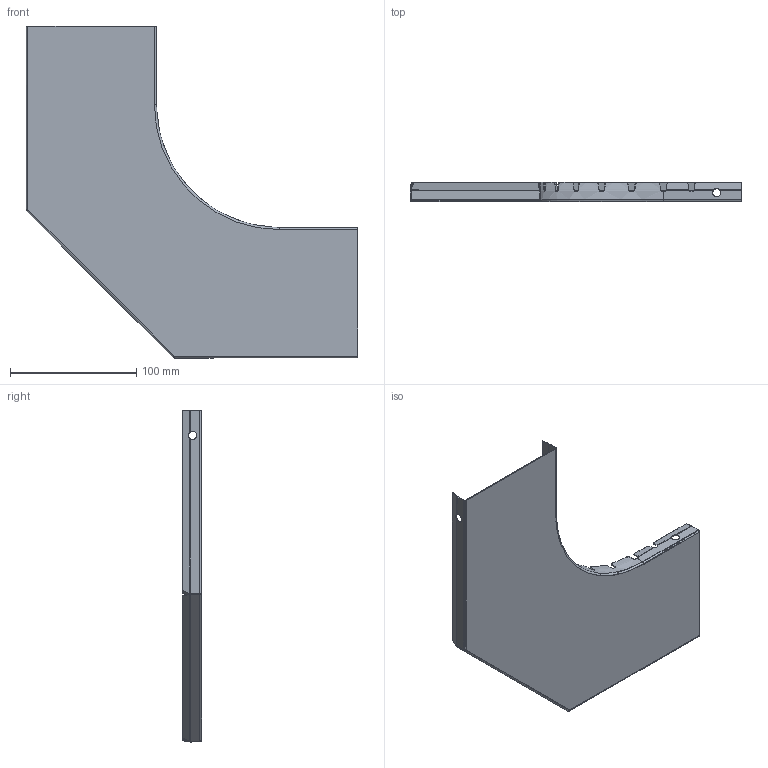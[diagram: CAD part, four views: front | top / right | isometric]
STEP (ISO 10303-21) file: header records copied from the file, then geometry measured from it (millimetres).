
FILE_DESCRIPTION (( 'STEP AP203' ), '1' );
FILE_NAME ('ERE_TAPA CP 100 GC.step', '2023-07-28T14:54:56', ( '' ), ( '' ), 'SwSTEP 2.0', 'SolidWorks 2022', '' );
FILE_SCHEMA (( 'CONFIG_CONTROL_DESIGN' ));
Length unit declared in the file: millimetre
Products named in the file (1): ERE_TAPA CP 100 GC
Bounding box: 262.5 x 15.1 x 262.5 mm (x, y, z)
Volume: 33821.5 mm3; surface area: 97513 mm2
Topology: 1 solids, 1 shells, 220 faces, 542 edges, 316 vertices
Faces by surface type: plane 98, cylinder 66, bspline 54, torus 2
Entity records: 10713 total; most frequent: CARTESIAN_POINT 5957, ORIENTED_EDGE 1084, DIRECTION 796, EDGE_CURVE 542, VERTEX_POINT 316, AXIS2_PLACEMENT_3D 281, VECTOR 234, LINE 234
